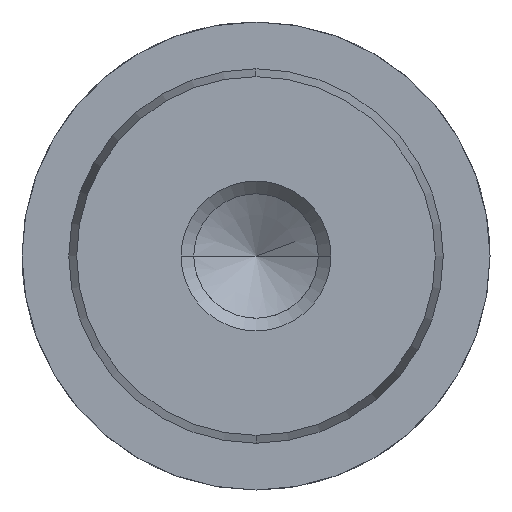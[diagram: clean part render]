
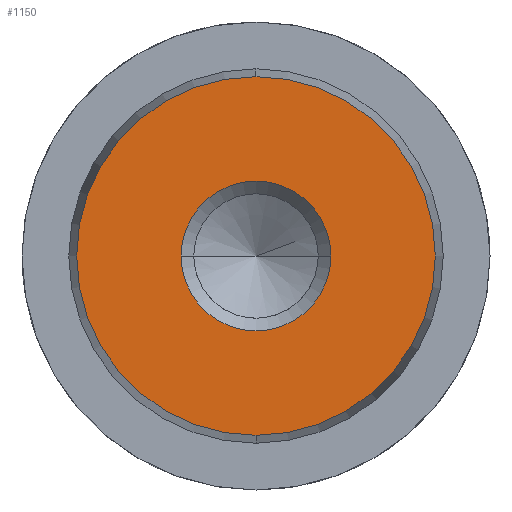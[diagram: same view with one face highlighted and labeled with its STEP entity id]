
A CAD part, left-side view. The second image highlights one B-rep face of the part: STEP entity #1150.
In plain terms, the highlighted planar face has unit normal (-1, 0, 0).
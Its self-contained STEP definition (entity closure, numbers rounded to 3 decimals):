
#1064=CARTESIAN_POINT('Vertex',(0.,0.,-9.578)) ;
#1067=CARTESIAN_POINT('Axis2P3D Location',(0.,0.,0.)) ;
#1071=CARTESIAN_POINT('Vertex',(0.,9.578,0.)) ;
#1074=CARTESIAN_POINT('Axis2P3D Location',(0.,0.,0.)) ;
#1078=CARTESIAN_POINT('Vertex',(0.,0.,9.578)) ;
#1100=CARTESIAN_POINT('Axis2P3D Location',(0.,0.,0.)) ;
#1104=CARTESIAN_POINT('Vertex',(0.,-9.578,0.)) ;
#1107=CARTESIAN_POINT('Axis2P3D Location',(0.,0.,0.)) ;
#1121=CARTESIAN_POINT('Axis2P3D Location',(0.,0.,0.)) ;
#1132=CARTESIAN_POINT('Axis2P3D Location',(0.,0.,0.)) ;
#1136=CARTESIAN_POINT('Vertex',(0.,4.,0.)) ;
#1138=CARTESIAN_POINT('Vertex',(0.,-4.,0.)) ;
#1141=CARTESIAN_POINT('Axis2P3D Location',(0.,0.,0.)) ;
#1068=DIRECTION('Axis2P3D Direction',(1.,0.,-0.)) ;
#1075=DIRECTION('Axis2P3D Direction',(1.,0.,-0.)) ;
#1101=DIRECTION('Axis2P3D Direction',(1.,0.,-0.)) ;
#1108=DIRECTION('Axis2P3D Direction',(1.,0.,-0.)) ;
#1122=DIRECTION('Axis2P3D Direction',(1.,0.,-0.)) ;
#1123=DIRECTION('Axis2P3D XDirection',(-0.,0.,-1.)) ;
#1133=DIRECTION('Axis2P3D Direction',(1.,0.,-0.)) ;
#1142=DIRECTION('Axis2P3D Direction',(1.,0.,-0.)) ;
#1069=AXIS2_PLACEMENT_3D('Circle Axis2P3D',#1067,#1068,$) ;
#1076=AXIS2_PLACEMENT_3D('Circle Axis2P3D',#1074,#1075,$) ;
#1102=AXIS2_PLACEMENT_3D('Circle Axis2P3D',#1100,#1101,$) ;
#1109=AXIS2_PLACEMENT_3D('Circle Axis2P3D',#1107,#1108,$) ;
#1124=AXIS2_PLACEMENT_3D('Plane Axis2P3D',#1121,#1122,#1123) ;
#1134=AXIS2_PLACEMENT_3D('Circle Axis2P3D',#1132,#1133,$) ;
#1143=AXIS2_PLACEMENT_3D('Circle Axis2P3D',#1141,#1142,$) ;
#1127=ORIENTED_EDGE('',*,*,#1073,.F.) ;
#1128=ORIENTED_EDGE('',*,*,#1111,.F.) ;
#1129=ORIENTED_EDGE('',*,*,#1106,.F.) ;
#1130=ORIENTED_EDGE('',*,*,#1080,.F.) ;
#1147=ORIENTED_EDGE('',*,*,#1140,.T.) ;
#1148=ORIENTED_EDGE('',*,*,#1145,.T.) ;
#1149=FACE_BOUND('',#1146,.T.) ;
#1150=ADVANCED_FACE('718-20x125',(#1131,#1149),#1125,.F.) ;
#1070=CIRCLE('generated circle',#1069,9.578) ;
#1077=CIRCLE('generated circle',#1076,9.578) ;
#1103=CIRCLE('generated circle',#1102,9.578) ;
#1110=CIRCLE('generated circle',#1109,9.578) ;
#1135=CIRCLE('generated circle',#1134,4.) ;
#1144=CIRCLE('generated circle',#1143,4.) ;
#1073=EDGE_CURVE('',#1065,#1072,#1070,.T.) ;
#1080=EDGE_CURVE('',#1072,#1079,#1077,.T.) ;
#1106=EDGE_CURVE('',#1079,#1105,#1103,.T.) ;
#1111=EDGE_CURVE('',#1105,#1065,#1110,.T.) ;
#1140=EDGE_CURVE('',#1137,#1139,#1135,.T.) ;
#1145=EDGE_CURVE('',#1139,#1137,#1144,.T.) ;
#1126=EDGE_LOOP('',(#1127,#1128,#1129,#1130)) ;
#1146=EDGE_LOOP('',(#1147,#1148)) ;
#1131=FACE_OUTER_BOUND('',#1126,.T.) ;
#1125=PLANE('Plane',#1124) ;
#1065=VERTEX_POINT('',#1064) ;
#1072=VERTEX_POINT('',#1071) ;
#1079=VERTEX_POINT('',#1078) ;
#1105=VERTEX_POINT('',#1104) ;
#1137=VERTEX_POINT('',#1136) ;
#1139=VERTEX_POINT('',#1138) ;
